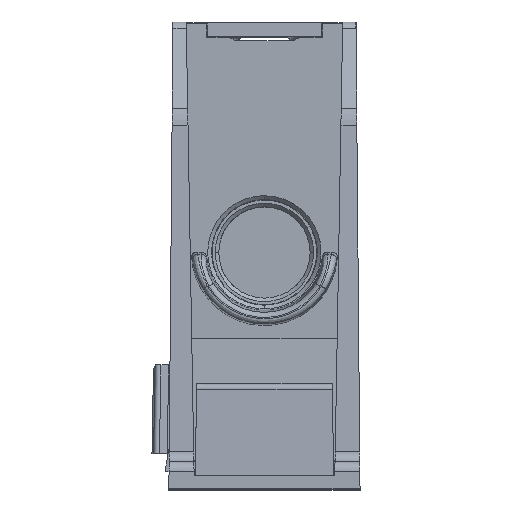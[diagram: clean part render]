
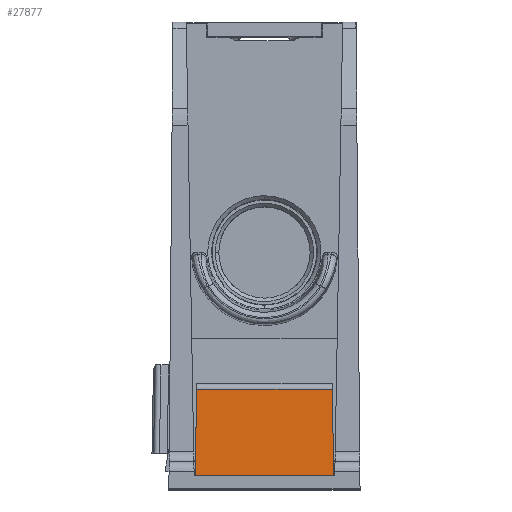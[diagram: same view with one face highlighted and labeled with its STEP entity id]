
A CAD part, top view. The second image highlights one B-rep face of the part: STEP entity #27877.
In plain terms, the highlighted planar face has unit normal (0, 0.018, 1).
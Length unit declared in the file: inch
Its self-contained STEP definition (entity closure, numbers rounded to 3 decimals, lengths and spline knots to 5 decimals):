
#4604 = VECTOR ( 'NONE', #16684, 39.37008 ) ;
#5002 = VECTOR ( 'NONE', #18671, 39.37008 ) ;
#5017 = VECTOR ( 'NONE', #18748, 39.37008 ) ;
#5024 = VECTOR ( 'NONE', #18773, 39.37008 ) ;
#6626 = AXIS2_PLACEMENT_3D ( 'NONE', #24477, #24478, #24479 ) ;
#7039 = EDGE_CURVE ( 'NONE', #26976, #27252, #16682, .T. ) ;
#11635 = EDGE_CURVE ( 'NONE', #27177, #26976, #18669, .T. ) ;
#11657 = EDGE_CURVE ( 'NONE', #27155, #27252, #18745, .T. ) ;
#11665 = EDGE_CURVE ( 'NONE', #27177, #27155, #18770, .T. ) ;
#16682 = LINE ( 'NONE', #16683, #4604 ) ;
#16683 = CARTESIAN_POINT ( 'NONE',  ( 0.4025, 0., 0. ) ) ;
#16684 = DIRECTION ( 'NONE',  ( -1., 0., 0. ) ) ;
#18669 = LINE ( 'NONE', #18670, #5002 ) ;
#18670 = CARTESIAN_POINT ( 'NONE',  ( 0.4025, 0., 0. ) ) ;
#18671 = DIRECTION ( 'NONE',  ( 0.017, -1., 0.017 ) ) ;
#18745 = LINE ( 'NONE', #18747, #5017 ) ;
#18747 = CARTESIAN_POINT ( 'NONE',  ( -0.40225, 0.01404, -0.00025 ) ) ;
#18748 = DIRECTION ( 'NONE',  ( -0.017, -1., 0.017 ) ) ;
#18770 = LINE ( 'NONE', #18772, #5024 ) ;
#18772 = CARTESIAN_POINT ( 'NONE',  ( 0.4025, 0.50052, -0.00874 ) ) ;
#18773 = DIRECTION ( 'NONE',  ( -1., 0., 0. ) ) ;
#19101 = EDGE_LOOP ( 'NONE', ( #28197, #28198, #28199, #28200 ) ) ;
#23290 = CARTESIAN_POINT ( 'NONE',  ( 0.4025, 0., 0. ) ) ;
#23457 = CARTESIAN_POINT ( 'NONE',  ( -0.39376, 0.50052, -0.00874 ) ) ;
#23478 = CARTESIAN_POINT ( 'NONE',  ( 0.39376, 0.50052, -0.00874 ) ) ;
#23546 = CARTESIAN_POINT ( 'NONE',  ( -0.4025, 0., 0. ) ) ;
#24469 = PLANE ( 'NONE',  #6626 ) ;
#24475 = FACE_OUTER_BOUND ( 'NONE', #19101, .T. ) ;
#24477 = CARTESIAN_POINT ( 'NONE',  ( 0.4025, 0., 0. ) ) ;
#24478 = DIRECTION ( 'NONE',  ( 0., 0.017, 1. ) ) ;
#24479 = DIRECTION ( 'NONE',  ( 0., -1., 0.017 ) ) ;
#26976 = VERTEX_POINT ( 'NONE', #23290 ) ;
#27155 = VERTEX_POINT ( 'NONE', #23457 ) ;
#27177 = VERTEX_POINT ( 'NONE', #23478 ) ;
#27252 = VERTEX_POINT ( 'NONE', #23546 ) ;
#27877 = ADVANCED_FACE ( 'NONE', ( #24475 ), #24469, .T. ) ;
#28197 = ORIENTED_EDGE ( 'NONE', *, *, #11635, .F. ) ;
#28198 = ORIENTED_EDGE ( 'NONE', *, *, #11665, .T. ) ;
#28199 = ORIENTED_EDGE ( 'NONE', *, *, #11657, .T. ) ;
#28200 = ORIENTED_EDGE ( 'NONE', *, *, #7039, .F. ) ;
